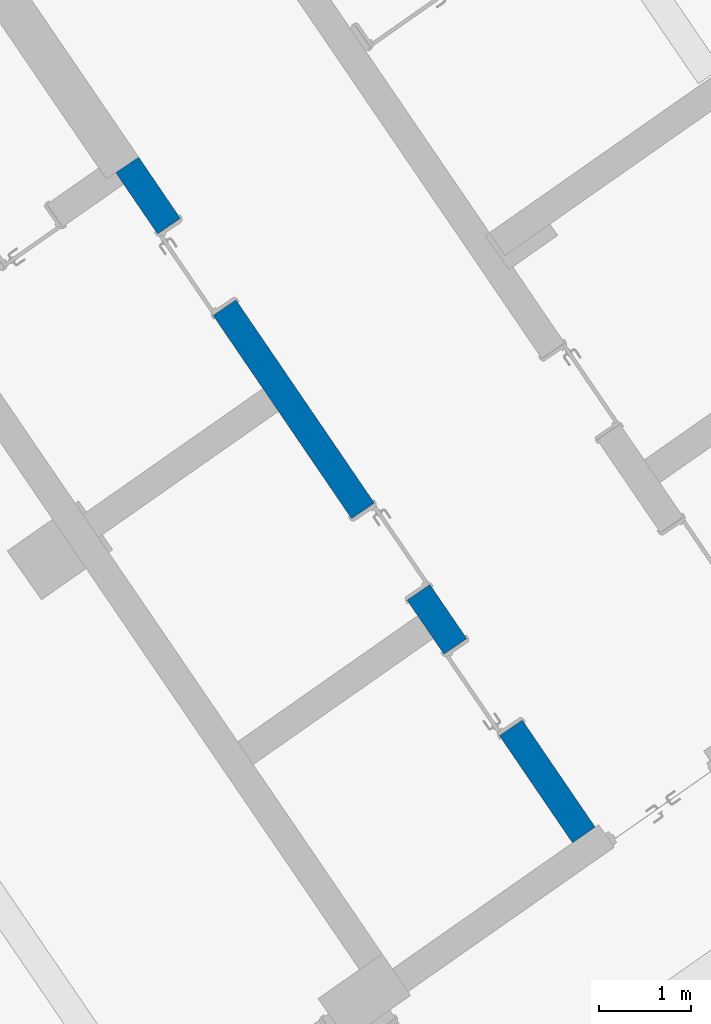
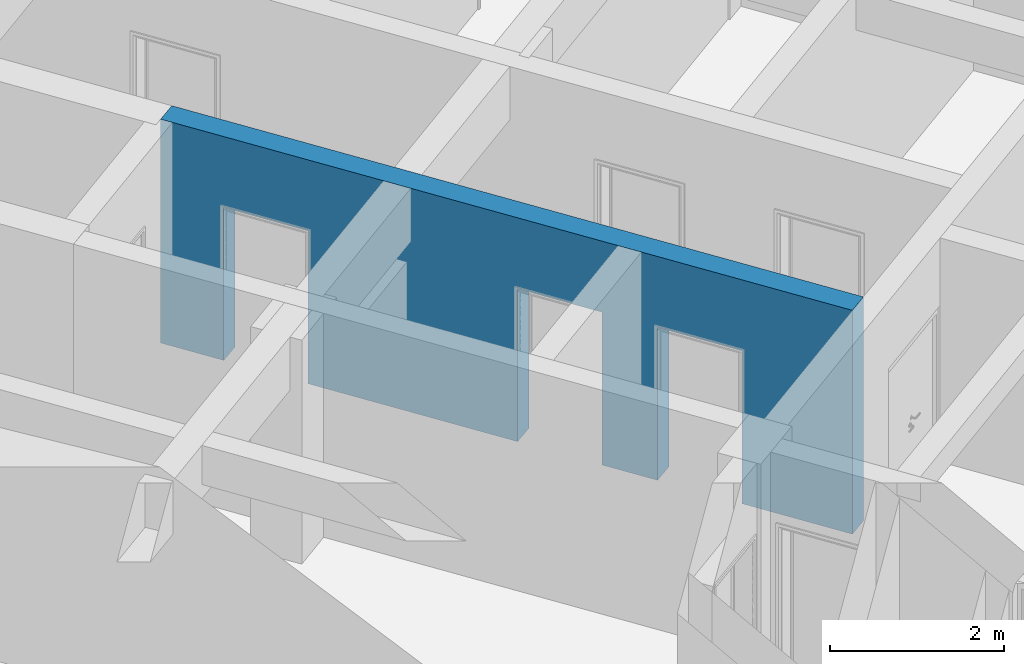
# One storey, part 47 of 112: 1 wall, 3 openings.
"""IFC2X3 building model written with IfcOpenShell, lengths in millimetres."""

from ifc_helpers import new_model, entity, si_unit, converted_unit, derived_unit, direction, frame, frame_2d, origin, place, context, subcontext, project, spatial, polyline, rectangle, outline, extrude, material, layer, layer_set, layer_usage, type_object, element, save


model = new_model("IFC2X3")

# Units and contexts
model_context = context("Model", 3, precision=0.01, world=origin(), true_north=direction((6.123031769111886e-17, 1.0)))
body_context = subcontext(model_context, "Body", "Model", "MODEL_VIEW")
ifc_project = project(units=[si_unit("LENGTHUNIT", "METRE", prefix="MILLI"), si_unit("AREAUNIT", "SQUARE_METRE"), si_unit("VOLUMEUNIT", "CUBIC_METRE"), converted_unit("PLANEANGLEUNIT", "DEGREE", entity("IfcRatioMeasure", 0.017453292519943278), si_unit("PLANEANGLEUNIT", "RADIAN"), dimensions=[0, 0, 0, 0, 0, 0, 0]), si_unit("MASSUNIT", "GRAM", prefix="KILO"), derived_unit("MASSDENSITYUNIT", [(si_unit("MASSUNIT", "GRAM", prefix="KILO"), 1), (si_unit("LENGTHUNIT", "METRE"), -3)]), derived_unit("MOMENTOFINERTIAUNIT", [(si_unit("LENGTHUNIT", "METRE"), 4)]), si_unit("TIMEUNIT", "SECOND"), si_unit("FREQUENCYUNIT", "HERTZ"), si_unit("THERMODYNAMICTEMPERATUREUNIT", "DEGREE_CELSIUS"), derived_unit("THERMALTRANSMITTANCEUNIT", [(si_unit("MASSUNIT", "GRAM", prefix="KILO"), 1), (si_unit("THERMODYNAMICTEMPERATUREUNIT", "KELVIN"), -1), (si_unit("TIMEUNIT", "SECOND"), -3)]), derived_unit("THERMALCONDUCTANCEUNIT", [(si_unit("MASSUNIT", "GRAM", prefix="KILO"), 1), (si_unit("LENGTHUNIT", "METRE"), 1), (si_unit("THERMODYNAMICTEMPERATUREUNIT", "KELVIN"), -1), (si_unit("TIMEUNIT", "SECOND"), -3)]), derived_unit("VOLUMETRICFLOWRATEUNIT", [(si_unit("LENGTHUNIT", "METRE"), 3), (si_unit("TIMEUNIT", "SECOND"), -1)]), derived_unit("MASSFLOWRATEUNIT", [(si_unit("MASSUNIT", "GRAM", prefix="KILO"), 1), (si_unit("TIMEUNIT", "SECOND"), -1)]), derived_unit("ROTATIONALFREQUENCYUNIT", [(si_unit("TIMEUNIT", "SECOND"), -1)]), si_unit("ELECTRICCURRENTUNIT", "AMPERE"), si_unit("ELECTRICVOLTAGEUNIT", "VOLT"), si_unit("POWERUNIT", "WATT"), converted_unit("FORCEUNIT", "KIP", entity("IfcRatioMeasure", 2.088543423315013e-05), si_unit("FORCEUNIT", "NEWTON"), dimensions=[1, 1, -2, 0, 0, 0, 0]), si_unit("ILLUMINANCEUNIT", "LUX"), si_unit("LUMINOUSFLUXUNIT", "LUMEN"), si_unit("LUMINOUSINTENSITYUNIT", "CANDELA"), derived_unit("USERDEFINED", [(si_unit("MASSUNIT", "GRAM", prefix="KILO"), -1), (si_unit("LENGTHUNIT", "METRE"), -2), (si_unit("TIMEUNIT", "SECOND"), 3), (si_unit("LUMINOUSFLUXUNIT", "LUMEN"), 1)]), derived_unit("USERDEFINED", [(si_unit("MASSUNIT", "GRAM", prefix="KILO"), 1), (si_unit("LENGTHUNIT", "METRE"), 3), (si_unit("TIMEUNIT", "SECOND"), -3), (si_unit("ELECTRICCURRENTUNIT", "AMPERE"), -2)]), derived_unit("USERDEFINED", [(si_unit("LENGTHUNIT", "METRE"), 2), (si_unit("TIMEUNIT", "SECOND"), -2)]), derived_unit("SOUNDPOWERUNIT", [(si_unit("MASSUNIT", "GRAM", prefix="KILO"), 1), (si_unit("LENGTHUNIT", "METRE"), 2), (si_unit("TIMEUNIT", "SECOND"), -3)]), derived_unit("SOUNDPRESSUREUNIT", [(si_unit("MASSUNIT", "GRAM", prefix="KILO"), 1), (si_unit("LENGTHUNIT", "METRE"), -1), (si_unit("TIMEUNIT", "SECOND"), -2)]), derived_unit("LINEARVELOCITYUNIT", [(si_unit("LENGTHUNIT", "METRE"), 1), (si_unit("TIMEUNIT", "SECOND"), -1)]), si_unit("PRESSUREUNIT", "PASCAL"), derived_unit("USERDEFINED", [(si_unit("LENGTHUNIT", "METRE"), -2), (si_unit("MASSUNIT", "GRAM", prefix="KILO"), 1), (si_unit("TIMEUNIT", "SECOND"), -2)]), derived_unit("LINEARFORCEUNIT", [(si_unit("MASSUNIT", "GRAM", prefix="KILO"), 1), (si_unit("LENGTHUNIT", "METRE"), 1), (si_unit("TIMEUNIT", "SECOND"), -2), (si_unit("LENGTHUNIT", "METRE"), -1)]), derived_unit("PLANARFORCEUNIT", [(si_unit("MASSUNIT", "GRAM", prefix="KILO"), 1), (si_unit("LENGTHUNIT", "METRE"), 1), (si_unit("TIMEUNIT", "SECOND"), -2), (si_unit("LENGTHUNIT", "METRE"), -2)]), derived_unit("SPECIFICHEATCAPACITYUNIT", [(si_unit("LENGTHUNIT", "METRE"), 2), (si_unit("TIMEUNIT", "SECOND"), -2), (si_unit("THERMODYNAMICTEMPERATUREUNIT", "KELVIN"), -1)]), derived_unit("VAPORPERMEABILITYUNIT", [(si_unit("TIMEUNIT", "SECOND"), 1), (si_unit("LENGTHUNIT", "METRE"), -1)]), derived_unit("DYNAMICVISCOSITYUNIT", [(si_unit("MASSUNIT", "GRAM", prefix="KILO"), 1), (si_unit("LENGTHUNIT", "METRE"), -1), (si_unit("TIMEUNIT", "SECOND"), -1)]), derived_unit("THERMALEXPANSIONCOEFFICIENTUNIT", [(si_unit("THERMODYNAMICTEMPERATUREUNIT", "KELVIN"), -1)])], contexts=[model_context])

# Site, building, storey
site_placement = place(None, frame((0.0, 0.0, 0.0), z_axis=(0.0, 0.0, 1.0), x_axis=(0.8191520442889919, 0.5735764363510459, 0.0)))
site = spatial("IfcSite", under=ifc_project, at=site_placement, Name="Default", CompositionType="ELEMENT")
building_placement = place(site_placement, origin())
building = spatial("IfcBuilding", under=site, at=building_placement, CompositionType="ELEMENT")
storey_placement = place(building_placement, frame((0.0, 0.0, -3600.0)))
storey = spatial("IfcBuildingStorey", under=building, at=storey_placement, Name="0.UG -3.60", CompositionType="ELEMENT", Elevation=-3600.0000000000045)

# Wall, openings
ifc_material = material(Name="Analytical Wall Surface_CJC")
ifc_layer = layer(ifc_material, 300.0)
ifc_layer_set = layer_set([ifc_layer], Name="Basic Wall:Wand_Innen_30")
ifc_layer_usage = layer_usage(ifc_layer_set, "AXIS2", "POSITIVE", -150.0)
wall_type = type_object("IfcWallType", Name="Basic Wall:Wand_Innen_30", PredefinedType="STANDARD", material=ifc_layer_set)
wall_placement = place(storey_placement, frame((-214636.6036542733, 61569.44947620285, 300.0), z_axis=(0.0, 0.0, 1.0), x_axis=(0.012729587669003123, 0.9999189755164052, 0.0)))
wall = element("IfcWallStandardCase", 1, at=wall_placement, inside=storey, type_object=wall_type, material=ifc_layer_usage, Name="Basic Wall:Wand_Innen_30", ObjectType="Basic Wall:Wand_Innen_30", context=body_context, shape_type="SweptSolid", body=[
    extrude(outline(polyline([(3.8191857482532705, -150.0), (5654.277011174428, -150.0), (6004.305372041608, -150.0), (8852.626717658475, -150.0), (8852.626717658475, 150.0), (8700.704970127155, 150.0), (6000.486186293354, 150.0), (5650.457825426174, 150.0), (3000.2430931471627, 150.0), (2700.2187838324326, 150.0), (0.0, 150.0), (3.8191857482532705, -150.0)])), origin(), (0.0, 0.0, 1.0), 3150.0),
])
opening_1_placement = place(wall_placement, frame((6964.467434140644, -150.0, 0.0)))
element("IfcOpeningElement", 2, at=opening_1_placement, cuts=wall, Name="Doors_IntSgl:100x210:1", ObjectType="Opening", context=body_context, shape_type="SweptSolid", body=[
    extrude(rectangle(XDim=2150.000000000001, YDim=1079.9999999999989, at=frame_2d((1075.0000000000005, 539.9999999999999), x_axis=(1.0, 0.0))), frame((0.0, 0.0, 0.0), z_axis=(0.0, 1.0, 0.0), x_axis=(0.0, 0.0, 1.0)), (0.0, 0.0, 1.0), 300.0),
])
opening_2_placement = place(wall_placement, frame((4284.467434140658, 150.0, 0.0)))
element("IfcOpeningElement", 3, at=opening_2_placement, cuts=wall, Name="Doors_IntSgl:100x210:1", ObjectType="Opening", context=body_context, shape_type="SweptSolid", body=[
    extrude(rectangle(XDim=2150.000000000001, YDim=1079.9999999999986, at=frame_2d((1075.0000000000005, 539.9999999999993), x_axis=(1.0, 0.0))), frame((0.0, 0.0, 0.0), z_axis=(0.0, -1.0, 0.0), x_axis=(0.0, 0.0, 1.0)), (0.0, 0.0, 1.0), 300.0),
])
opening_3_placement = place(wall_placement, frame((1413.9366807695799, -150.0, 0.0)))
element("IfcOpeningElement", 4, at=opening_3_placement, cuts=wall, Name="Doors_IntSgl:100x210:1", ObjectType="Opening", context=body_context, shape_type="SweptSolid", body=[
    extrude(rectangle(XDim=2150.000000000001, YDim=1079.9999999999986, at=frame_2d((1075.0000000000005, 539.9999999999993), x_axis=(1.0, 0.0))), frame((0.0, 0.0, 0.0), z_axis=(0.0, 1.0, 0.0), x_axis=(0.0, 0.0, 1.0)), (0.0, 0.0, 1.0), 300.0),
])

save(model, "model.ifc")
